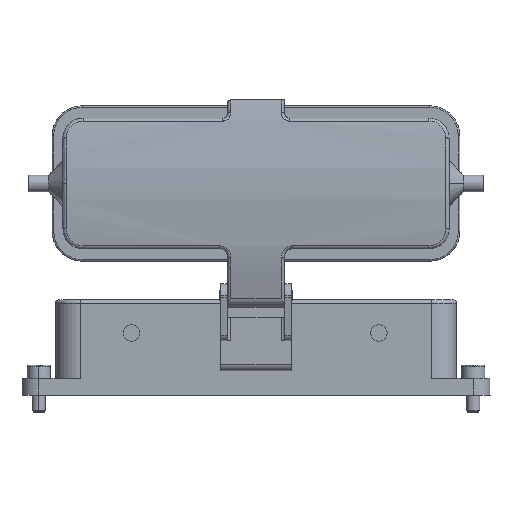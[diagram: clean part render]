
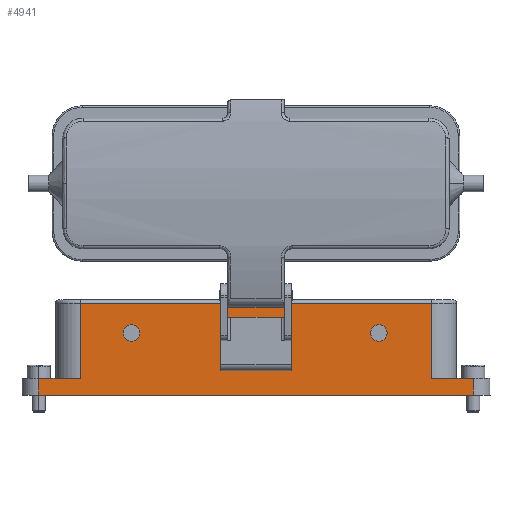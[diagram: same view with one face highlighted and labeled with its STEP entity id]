
A CAD part, top view. The second image highlights one B-rep face of the part: STEP entity #4941.
In plain terms, the highlighted planar face has unit normal (0, 0, 1).
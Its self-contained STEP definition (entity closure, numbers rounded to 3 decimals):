
#2042 = EDGE_CURVE ( 'NONE', #2337, #2335, #5756, .T. ) ;
#2043 = EDGE_CURVE ( 'NONE', #2168, #2186, #5755, .T. ) ;
#2045 = EDGE_CURVE ( 'NONE', #2240, #2193, #5759, .T. ) ;
#2047 = EDGE_CURVE ( 'NONE', #2193, #2251, #5762, .T. ) ;
#2049 = EDGE_CURVE ( 'NONE', #2251, #2352, #5765, .T. ) ;
#2051 = EDGE_CURVE ( 'NONE', #2352, #2341, #5768, .T. ) ;
#2052 = EDGE_CURVE ( 'NONE', #2341, #2354, #5769, .T. ) ;
#2055 = EDGE_CURVE ( 'NONE', #2354, #2350, #5774, .T. ) ;
#2056 = EDGE_CURVE ( 'NONE', #2350, #2252, #5775, .T. ) ;
#2057 = EDGE_CURVE ( 'NONE', #2252, #2240, #5777, .T. ) ;
#2095 = EDGE_CURVE ( 'NONE', #2374, #2382, #5835, .T. ) ;
#2096 = EDGE_CURVE ( 'NONE', #2379, #2382, #5831, .T. ) ;
#2097 = EDGE_CURVE ( 'NONE', #2376, #2379, #5839, .T. ) ;
#2098 = EDGE_CURVE ( 'NONE', #2374, #2376, #5841, .T. ) ;
#2168 = VERTEX_POINT ( 'NONE', #6348 ) ;
#2186 = VERTEX_POINT ( 'NONE', #6366 ) ;
#2193 = VERTEX_POINT ( 'NONE', #6373 ) ;
#2240 = VERTEX_POINT ( 'NONE', #6420 ) ;
#2251 = VERTEX_POINT ( 'NONE', #6431 ) ;
#2252 = VERTEX_POINT ( 'NONE', #6432 ) ;
#2335 = VERTEX_POINT ( 'NONE', #6515 ) ;
#2337 = VERTEX_POINT ( 'NONE', #6517 ) ;
#2341 = VERTEX_POINT ( 'NONE', #6521 ) ;
#2350 = VERTEX_POINT ( 'NONE', #6530 ) ;
#2352 = VERTEX_POINT ( 'NONE', #6532 ) ;
#2354 = VERTEX_POINT ( 'NONE', #6534 ) ;
#2374 = VERTEX_POINT ( 'NONE', #6554 ) ;
#2376 = VERTEX_POINT ( 'NONE', #6556 ) ;
#2379 = VERTEX_POINT ( 'NONE', #6559 ) ;
#2382 = VERTEX_POINT ( 'NONE', #6562 ) ;
#3049 = EDGE_CURVE ( 'NONE', #2335, #2337, #5965, .T. ) ;
#3089 = EDGE_CURVE ( 'NONE', #2186, #2168, #6025, .T. ) ;
#3433 = ORIENTED_EDGE ( 'NONE', *, *, #2056, .T. ) ;
#3434 = ORIENTED_EDGE ( 'NONE', *, *, #2057, .T. ) ;
#3435 = ORIENTED_EDGE ( 'NONE', *, *, #2045, .T. ) ;
#3436 = ORIENTED_EDGE ( 'NONE', *, *, #2047, .T. ) ;
#3437 = ORIENTED_EDGE ( 'NONE', *, *, #2049, .T. ) ;
#3438 = ORIENTED_EDGE ( 'NONE', *, *, #2051, .T. ) ;
#3439 = ORIENTED_EDGE ( 'NONE', *, *, #2052, .T. ) ;
#3440 = ORIENTED_EDGE ( 'NONE', *, *, #2055, .T. ) ;
#3441 = ORIENTED_EDGE ( 'NONE', *, *, #2043, .T. ) ;
#3442 = ORIENTED_EDGE ( 'NONE', *, *, #3089, .T. ) ;
#3443 = ORIENTED_EDGE ( 'NONE', *, *, #2042, .T. ) ;
#3444 = ORIENTED_EDGE ( 'NONE', *, *, #3049, .T. ) ;
#3445 = ORIENTED_EDGE ( 'NONE', *, *, #2096, .F. ) ;
#3446 = ORIENTED_EDGE ( 'NONE', *, *, #2097, .F. ) ;
#3447 = ORIENTED_EDGE ( 'NONE', *, *, #2098, .F. ) ;
#3448 = ORIENTED_EDGE ( 'NONE', *, *, #2095, .T. ) ;
#4721 = AXIS2_PLACEMENT_3D ( 'NONE', #5584, #5585, #5586 ) ;
#4722 = AXIS2_PLACEMENT_3D ( 'NONE', #5588, #5589, #5590 ) ;
#4769 = AXIS2_PLACEMENT_3D ( 'NONE', #6935, #6936, #6937 ) ;
#4791 = AXIS2_PLACEMENT_3D ( 'NONE', #7038, #7039, #7040 ) ;
#4941 = ADVANCED_FACE ( 'F1', ( #9902, #9906, #9903, #9905 ), #10017, .T. ) ;
#5563 = CARTESIAN_POINT ( 'NONE',  ( -52.25, -17.3, 21.5 ) ) ;
#5584 = CARTESIAN_POINT ( 'NONE',  ( 37., 1.4, 21.5 ) ) ;
#5585 = DIRECTION ( 'NONE',  ( 0., 0., -1. ) ) ;
#5586 = DIRECTION ( 'NONE',  ( 1., 0., 0. ) ) ;
#5587 = DIRECTION ( 'NONE',  ( 0., -1., 0. ) ) ;
#5588 = CARTESIAN_POINT ( 'NONE',  ( -37., 1.4, 21.5 ) ) ;
#5589 = DIRECTION ( 'NONE',  ( 0., 0., -1. ) ) ;
#5590 = DIRECTION ( 'NONE',  ( 1., 0., 0. ) ) ;
#5591 = DIRECTION ( 'NONE',  ( -1., 0., 0. ) ) ;
#5595 = CARTESIAN_POINT ( 'NONE',  ( -65.05, -12.2, 21.5 ) ) ;
#5596 = CARTESIAN_POINT ( 'NONE',  ( -64.75, -17.3, 21.5 ) ) ;
#5597 = DIRECTION ( 'NONE',  ( 0., -1., 0. ) ) ;
#5601 = CARTESIAN_POINT ( 'NONE',  ( -65.05, -17.2, 21.5 ) ) ;
#5602 = DIRECTION ( 'NONE',  ( 1., 0., 0. ) ) ;
#5609 = CARTESIAN_POINT ( 'NONE',  ( 65.25, -17.3, 21.5 ) ) ;
#5610 = DIRECTION ( 'NONE',  ( 0., 1., 0. ) ) ;
#5611 = CARTESIAN_POINT ( 'NONE',  ( -65.05, -12.2, 21.5 ) ) ;
#5612 = DIRECTION ( 'NONE',  ( -1., 0., 0. ) ) ;
#5620 = CARTESIAN_POINT ( 'NONE',  ( 52.75, -17.3, 21.5 ) ) ;
#5621 = DIRECTION ( 'NONE',  ( 0., 1., 0. ) ) ;
#5622 = CARTESIAN_POINT ( 'NONE',  ( -65.05, 10.3, 21.5 ) ) ;
#5623 = DIRECTION ( 'NONE',  ( -1., 0., 0. ) ) ;
#5755 = CIRCLE ( 'NONE', #4722, 2.45 ) ;
#5756 = CIRCLE ( 'NONE', #4721, 2.45 ) ;
#5759 = LINE ( 'NONE', #5563, #5761 ) ;
#5761 = VECTOR ( 'NONE', #5587, 1000. ) ;
#5762 = LINE ( 'NONE', #5595, #5764 ) ;
#5764 = VECTOR ( 'NONE', #5591, 1000. ) ;
#5765 = LINE ( 'NONE', #5596, #5767 ) ;
#5767 = VECTOR ( 'NONE', #5597, 1000. ) ;
#5768 = LINE ( 'NONE', #5601, #5770 ) ;
#5769 = LINE ( 'NONE', #5609, #5772 ) ;
#5770 = VECTOR ( 'NONE', #5602, 1000. ) ;
#5772 = VECTOR ( 'NONE', #5610, 1000. ) ;
#5774 = LINE ( 'NONE', #5611, #5776 ) ;
#5775 = LINE ( 'NONE', #5620, #5778 ) ;
#5776 = VECTOR ( 'NONE', #5612, 1000. ) ;
#5777 = LINE ( 'NONE', #5622, #5780 ) ;
#5778 = VECTOR ( 'NONE', #5621, 1000. ) ;
#5780 = VECTOR ( 'NONE', #5623, 1000. ) ;
#5831 = LINE ( 'NONE', #6291, #5840 ) ;
#5835 = LINE ( 'NONE', #6300, #5838 ) ;
#5838 = VECTOR ( 'NONE', #6301, 1000. ) ;
#5839 = LINE ( 'NONE', #6303, #5842 ) ;
#5840 = VECTOR ( 'NONE', #6302, 1000. ) ;
#5841 = LINE ( 'NONE', #6305, #5844 ) ;
#5842 = VECTOR ( 'NONE', #6304, 1000. ) ;
#5844 = VECTOR ( 'NONE', #6306, 1000. ) ;
#5965 = CIRCLE ( 'NONE', #4769, 2.45 ) ;
#6025 = CIRCLE ( 'NONE', #4791, 2.45 ) ;
#6291 = CARTESIAN_POINT ( 'NONE',  ( -10.35, -10.55, 21.5 ) ) ;
#6300 = CARTESIAN_POINT ( 'NONE',  ( -65.05, -9.9, 21.5 ) ) ;
#6301 = DIRECTION ( 'NONE',  ( -1., 0., 0. ) ) ;
#6302 = DIRECTION ( 'NONE',  ( 0., -1., 0. ) ) ;
#6303 = CARTESIAN_POINT ( 'NONE',  ( 10.85, 6.109, 21.5 ) ) ;
#6304 = DIRECTION ( 'NONE',  ( -1., 0., 0. ) ) ;
#6305 = CARTESIAN_POINT ( 'NONE',  ( 10.85, 16.75, 21.5 ) ) ;
#6306 = DIRECTION ( 'NONE',  ( 0., 1., 0. ) ) ;
#6348 = CARTESIAN_POINT ( 'NONE',  ( -34.55, 1.4, 21.5 ) ) ;
#6366 = CARTESIAN_POINT ( 'NONE',  ( -39.45, 1.4, 21.5 ) ) ;
#6373 = CARTESIAN_POINT ( 'NONE',  ( -52.25, -12.2, 21.5 ) ) ;
#6420 = CARTESIAN_POINT ( 'NONE',  ( -52.25, 10.3, 21.5 ) ) ;
#6431 = CARTESIAN_POINT ( 'NONE',  ( -64.75, -12.2, 21.5 ) ) ;
#6432 = CARTESIAN_POINT ( 'NONE',  ( 52.75, 10.3, 21.5 ) ) ;
#6515 = CARTESIAN_POINT ( 'NONE',  ( 34.55, 1.4, 21.5 ) ) ;
#6517 = CARTESIAN_POINT ( 'NONE',  ( 39.45, 1.4, 21.5 ) ) ;
#6521 = CARTESIAN_POINT ( 'NONE',  ( 65.25, -17.2, 21.5 ) ) ;
#6530 = CARTESIAN_POINT ( 'NONE',  ( 52.75, -12.2, 21.5 ) ) ;
#6532 = CARTESIAN_POINT ( 'NONE',  ( -64.75, -17.2, 21.5 ) ) ;
#6534 = CARTESIAN_POINT ( 'NONE',  ( 65.25, -12.2, 21.5 ) ) ;
#6554 = CARTESIAN_POINT ( 'NONE',  ( 10.85, -9.9, 21.5 ) ) ;
#6556 = CARTESIAN_POINT ( 'NONE',  ( 10.85, 6.109, 21.5 ) ) ;
#6559 = CARTESIAN_POINT ( 'NONE',  ( -10.35, 6.109, 21.5 ) ) ;
#6562 = CARTESIAN_POINT ( 'NONE',  ( -10.35, -9.9, 21.5 ) ) ;
#6935 = CARTESIAN_POINT ( 'NONE',  ( 37., 1.4, 21.5 ) ) ;
#6936 = DIRECTION ( 'NONE',  ( 0., 0., -1. ) ) ;
#6937 = DIRECTION ( 'NONE',  ( 1., 0., 0. ) ) ;
#7038 = CARTESIAN_POINT ( 'NONE',  ( -37., 1.4, 21.5 ) ) ;
#7039 = DIRECTION ( 'NONE',  ( 0., 0., -1. ) ) ;
#7040 = DIRECTION ( 'NONE',  ( 1., 0., 0. ) ) ;
#9014 = AXIS2_PLACEMENT_3D ( 'NONE', #10025, #10026, #10027 ) ;
#9902 = FACE_OUTER_BOUND ( 'NONE', #13784, .T. ) ;
#9903 = FACE_BOUND ( 'NONE', #13758, .T. ) ;
#9905 = FACE_BOUND ( 'NONE', #13775, .T. ) ;
#9906 = FACE_BOUND ( 'NONE', #13795, .T. ) ;
#10017 = PLANE ( 'NONE',  #9014 ) ;
#10025 = CARTESIAN_POINT ( 'NONE',  ( -65.05, -17.3, 21.5 ) ) ;
#10026 = DIRECTION ( 'NONE',  ( 0., 0., 1. ) ) ;
#10027 = DIRECTION ( 'NONE',  ( 1., 0., 0. ) ) ;
#13758 = EDGE_LOOP ( 'NONE', ( #3443, #3444 ) ) ;
#13775 = EDGE_LOOP ( 'NONE', ( #3445, #3446, #3447, #3448 ) ) ;
#13784 = EDGE_LOOP ( 'NONE', ( #3433, #3434, #3435, #3436, #3437, #3438, #3439, #3440 ) ) ;
#13795 = EDGE_LOOP ( 'NONE', ( #3441, #3442 ) ) ;
